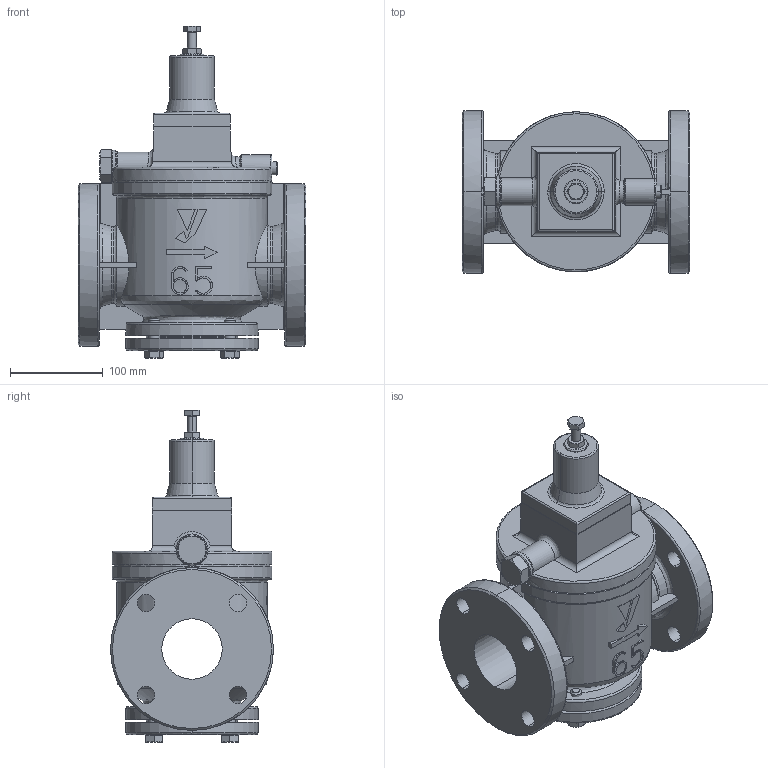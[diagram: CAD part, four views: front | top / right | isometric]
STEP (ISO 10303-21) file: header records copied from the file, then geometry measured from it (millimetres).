
FILE_DESCRIPTION( (''), '2;1');
FILE_NAME ('PC1015.12936.GP-1000(65A)JIS10K3D_30731.stp','2024-08-05T09:47:20',(''),(''),'spGate 19.8.4 (****-****-****-****)','','');
FILE_SCHEMA (('AUTOMOTIVE_DESIGN'));
Length unit declared in the file: millimetre
Products named in the file (6): Assembly; GP-1000 65A_1; CP_''_JIS B 1180 呼び径六角ボルト''_17166; CP_''_JIS B 1180 呼び径六角ボ''_(1)_17166; CP_''_JIS B 1180 呼び径六角ボ''_(2)_17166; CP_''_JIS B 1181 六角ナット 3種 上 ''_701
Assembly tree (8 placements, depth 2):
  Assembly
    GP-1000 65A_1
    CP_''_JIS B 1180 呼び径六角ボルト''_17166
    CP_''_JIS B 1180 呼び径六角ボ''_(1)_17166  x4
    CP_''_JIS B 1180 呼び径六角ボ''_(2)_17166
    CP_''_JIS B 1181 六角ナット 3種 上 ''_701
Bounding box: 245 x 175 x 357 mm (x, y, z)
Volume: 4924764.3 mm3; surface area: 386337.3 mm2
Topology: 8 solids, 8 shells, 435 faces, 1061 edges, 666 vertices
Faces by surface type: plane 161, bspline 160, cylinder 114
Entity records: 21654 total; most frequent: CARTESIAN_POINT 6624, ORIENTED_EDGE 1818, DIRECTION 1354, COLOUR_RGB 1277, PRESENTATION_STYLE_ASSIGNMENT 1277, STYLED_ITEM 1277, EDGE_CURVE 909, DRAUGHTING_PRE_DEFINED_CURVE_FONT 909
